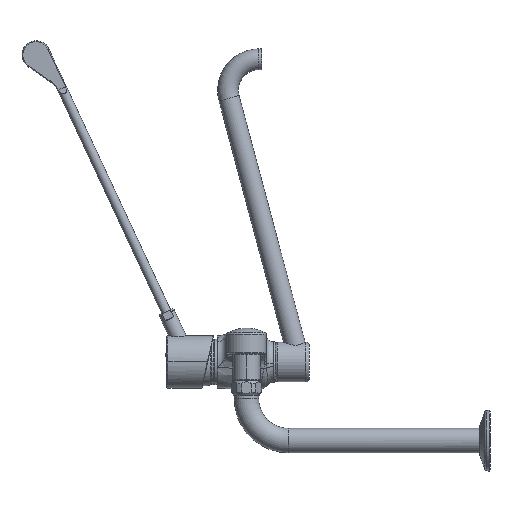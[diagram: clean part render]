
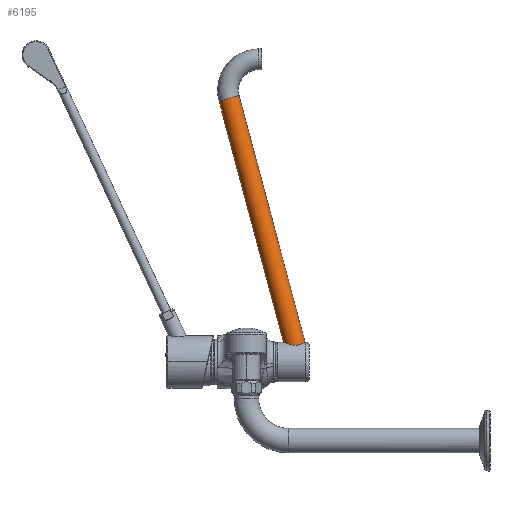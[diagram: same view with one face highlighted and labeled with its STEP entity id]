
A CAD part, left-side view. The second image highlights one B-rep face of the part: STEP entity #6195.
In plain terms, the highlighted cylindrical face has radius 11 mm (diameter 22 mm), a partial arc.
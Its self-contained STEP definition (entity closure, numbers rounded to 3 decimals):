
#2046=CARTESIAN_POINT('',(0.,-39.612,21.));
#2047=CARTESIAN_POINT('',(-0.125,-39.612,21.));
#2048=CARTESIAN_POINT('',(-0.375,-39.617,
20.998));
#2049=CARTESIAN_POINT('',(-0.751,-39.64,
20.988));
#2050=CARTESIAN_POINT('',(-1.126,-39.677,
20.971));
#2051=CARTESIAN_POINT('',(-1.502,-39.731,
20.947));
#2052=CARTESIAN_POINT('',(-1.879,-39.799,
20.917));
#2053=CARTESIAN_POINT('',(-2.255,-39.884,
20.88));
#2054=CARTESIAN_POINT('',(-2.631,-39.984,
20.836));
#2055=CARTESIAN_POINT('',(-3.009,-40.101,
20.785));
#2056=CARTESIAN_POINT('',(-3.386,-40.236,
20.726));
#2057=CARTESIAN_POINT('',(-3.763,-40.387,
20.661));
#2058=CARTESIAN_POINT('',(-4.14,-40.557,
20.589));
#2059=CARTESIAN_POINT('',(-4.517,-40.745,
20.51));
#2060=CARTESIAN_POINT('',(-4.893,-40.952,
20.423));
#2061=CARTESIAN_POINT('',(-5.267,-41.178,
20.33));
#2062=CARTESIAN_POINT('',(-5.639,-41.425,
20.23));
#2063=CARTESIAN_POINT('',(-6.008,-41.692,
20.123));
#2064=CARTESIAN_POINT('',(-6.373,-41.979,
20.011));
#2065=CARTESIAN_POINT('',(-6.733,-42.288,
19.892));
#2066=CARTESIAN_POINT('',(-7.087,-42.616,
19.769));
#2067=CARTESIAN_POINT('',(-7.433,-42.965,
19.642));
#2068=CARTESIAN_POINT('',(-7.77,-43.333,
19.511));
#2069=CARTESIAN_POINT('',(-8.096,-43.72,
19.378));
#2070=CARTESIAN_POINT('',(-8.41,-44.125,
19.243));
#2071=CARTESIAN_POINT('',(-8.709,-44.544,
19.11));
#2072=CARTESIAN_POINT('',(-8.993,-44.978,
18.978));
#2073=CARTESIAN_POINT('',(-9.261,-45.424,
18.849));
#2074=CARTESIAN_POINT('',(-9.509,-45.879,
18.724));
#2075=CARTESIAN_POINT('',(-9.739,-46.339,
18.606));
#2076=CARTESIAN_POINT('',(-9.949,-46.805,
18.494));
#2077=CARTESIAN_POINT('',(-10.139,-47.273,
18.391));
#2078=CARTESIAN_POINT('',(-10.308,-47.741,
18.296));
#2079=CARTESIAN_POINT('',(-10.458,-48.208,
18.211));
#2080=CARTESIAN_POINT('',(-10.589,-48.671,
18.135));
#2081=CARTESIAN_POINT('',(-10.7,-49.131,
18.07));
#2082=CARTESIAN_POINT('',(-10.793,-49.586,
18.014));
#2083=CARTESIAN_POINT('',(-10.868,-50.036,
17.969));
#2084=CARTESIAN_POINT('',(-10.926,-50.48,
17.934));
#2085=CARTESIAN_POINT('',(-10.967,-50.918,
17.909));
#2086=CARTESIAN_POINT('',(-10.993,-51.351,
17.893));
#2087=CARTESIAN_POINT('',(-11.002,-51.778,
17.887));
#2088=CARTESIAN_POINT('',(-10.997,-52.199,
17.89));
#2089=CARTESIAN_POINT('',(-10.976,-52.615,
17.903));
#2090=CARTESIAN_POINT('',(-10.941,-53.026,
17.925));
#2091=CARTESIAN_POINT('',(-10.891,-53.432,
17.955));
#2092=CARTESIAN_POINT('',(-10.827,-53.833,
17.994));
#2093=CARTESIAN_POINT('',(-10.748,-54.229,
18.041));
#2094=CARTESIAN_POINT('',(-10.654,-54.622,
18.097));
#2095=CARTESIAN_POINT('',(-10.545,-55.01,
18.16));
#2096=CARTESIAN_POINT('',(-10.422,-55.393,
18.232));
#2097=CARTESIAN_POINT('',(-10.283,-55.773,
18.31));
#2098=CARTESIAN_POINT('',(-10.128,-56.147,
18.396));
#2099=CARTESIAN_POINT('',(-9.958,-56.518,
18.489));
#2100=CARTESIAN_POINT('',(-9.771,-56.882,
18.589));
#2101=CARTESIAN_POINT('',(-9.568,-57.242,
18.694));
#2102=CARTESIAN_POINT('',(-9.349,-57.595,
18.805));
#2103=CARTESIAN_POINT('',(-9.113,-57.94,
18.92));
#2104=CARTESIAN_POINT('',(-8.86,-58.279,
19.04));
#2105=CARTESIAN_POINT('',(-8.592,-58.608,
19.163));
#2106=CARTESIAN_POINT('',(-8.307,-58.928,
19.288));
#2107=CARTESIAN_POINT('',(-8.007,-59.238,
19.415));
#2108=CARTESIAN_POINT('',(-7.692,-59.536,
19.542));
#2109=CARTESIAN_POINT('',(-7.362,-59.823,
19.668));
#2110=CARTESIAN_POINT('',(-7.019,-60.096,
19.793));
#2111=CARTESIAN_POINT('',(-6.664,-60.355,
19.916));
#2112=CARTESIAN_POINT('',(-6.297,-60.6,
20.035));
#2113=CARTESIAN_POINT('',(-5.919,-60.83,
20.15));
#2114=CARTESIAN_POINT('',(-5.532,-61.045,
20.26));
#2115=CARTESIAN_POINT('',(-5.136,-61.244,
20.364));
#2116=CARTESIAN_POINT('',(-4.733,-61.428,
20.461));
#2117=CARTESIAN_POINT('',(-4.322,-61.596,
20.552));
#2118=CARTESIAN_POINT('',(-3.906,-61.747,
20.635));
#2119=CARTESIAN_POINT('',(-3.484,-61.883,
20.711));
#2120=CARTESIAN_POINT('',(-3.057,-62.002,
20.778));
#2121=CARTESIAN_POINT('',(-2.627,-62.106,
20.837));
#2122=CARTESIAN_POINT('',(-2.194,-62.193,
20.887));
#2123=CARTESIAN_POINT('',(-1.758,-62.264,
20.928));
#2124=CARTESIAN_POINT('',(-1.32,-62.32,
20.96));
#2125=CARTESIAN_POINT('',(-0.881,-62.359,
20.983));
#2126=CARTESIAN_POINT('',(-0.441,-62.383,
20.997));
#2127=CARTESIAN_POINT('',(-0.147,-62.388,21.));
#2128=CARTESIAN_POINT('',(0.,-62.388,21.));
#2244=DIRECTION('',(0.,0.259,0.966));
#2245=VECTOR('',#2244,265.553);
#2246=CARTESIAN_POINT('',(0.,-39.612,21.));
#2247=LINE('',#2246,#2245);
#2248=DIRECTION('',(0.,0.259,0.966));
#2249=VECTOR('',#2248,271.447);
#2250=CARTESIAN_POINT('',(0.,-62.388,21.));
#2251=LINE('',#2250,#2249);
#2262=CARTESIAN_POINT('',(0.,18.493,280.351));
#2263=DIRECTION('',(0.,0.259,0.966));
#2264=DIRECTION('',(0.,0.966,-0.259));
#2265=AXIS2_PLACEMENT_3D('',#2262,#2263,#2264);
#4069=CARTESIAN_POINT('',(0.,29.118,277.504));
#4070=CARTESIAN_POINT('',(0.,7.868,283.198));
#4071=VERTEX_POINT('',#4069);
#4072=VERTEX_POINT('',#4070);
#4081=VERTEX_POINT('',#2046);
#4082=VERTEX_POINT('',#2128);
#6181=CARTESIAN_POINT('',(0.,-52.424,15.687));
#6182=DIRECTION('',(0.,0.259,0.966));
#6183=DIRECTION('',(0.,0.966,-0.259));
#6184=AXIS2_PLACEMENT_3D('',#6181,#6182,#6183);
#6185=CYLINDRICAL_SURFACE('',#6184,11.);
#6186=ORIENTED_EDGE('',*,*,#6136,.F.);
#6188=ORIENTED_EDGE('',*,*,#6187,.T.);
#6190=ORIENTED_EDGE('',*,*,#6189,.T.);
#6192=ORIENTED_EDGE('',*,*,#6191,.F.);
#6193=EDGE_LOOP('',(#6186,#6188,#6190,#6192));
#6194=FACE_OUTER_BOUND('',#6193,.F.);
#6195=ADVANCED_FACE('',(#6194),#6185,.T.);
#2129=B_SPLINE_CURVE_WITH_KNOTS('',3,(#2046,#2047,#2048,#2049,#2050,#2051,#2052,
#2053,#2054,#2055,#2056,#2057,#2058,#2059,#2060,#2061,#2062,#2063,#2064,#2065,
#2066,#2067,#2068,#2069,#2070,#2071,#2072,#2073,#2074,#2075,#2076,#2077,#2078,
#2079,#2080,#2081,#2082,#2083,#2084,#2085,#2086,#2087,#2088,#2089,#2090,#2091,
#2092,#2093,#2094,#2095,#2096,#2097,#2098,#2099,#2100,#2101,#2102,#2103,#2104,
#2105,#2106,#2107,#2108,#2109,#2110,#2111,#2112,#2113,#2114,#2115,#2116,#2117,
#2118,#2119,#2120,#2121,#2122,#2123,#2124,#2125,#2126,#2127,#2128),
.UNSPECIFIED.,.F.,.F.,(4,1,1,1,1,1,1,1,1,1,1,1,1,1,1,1,1,1,1,1,1,1,1,1,1,1,1,1,
1,1,1,1,1,1,1,1,1,1,1,1,1,1,1,1,1,1,1,1,1,1,1,1,1,1,1,1,1,1,1,1,1,1,1,1,1,1,1,1,
1,1,1,1,1,1,1,1,1,1,1,1,4),(0.,0.013,0.025,0.038,0.05,0.063,0.075,
0.088,0.1,0.113,0.125,0.138,0.15,0.163,0.175,0.188,0.2,
0.213,0.225,0.238,0.25,0.263,0.275,0.288,0.3,0.313,
0.325,0.338,0.35,0.363,0.375,0.388,0.4,0.413,0.425,
0.438,0.45,0.463,0.475,0.488,0.5,0.513,0.525,0.538,
0.55,0.563,0.575,0.588,0.6,0.613,0.625,0.638,0.65,
0.663,0.675,0.688,0.7,0.713,0.725,0.738,0.75,0.763,
0.775,0.788,0.8,0.813,0.825,0.838,0.85,0.863,0.875,
0.888,0.9,0.913,0.925,0.938,0.95,0.963,0.975,0.988,1.),
.UNSPECIFIED.);
#2266=CIRCLE('',#2265,11.);
#6136=EDGE_CURVE('',#4081,#4082,#2129,.T.);
#6187=EDGE_CURVE('',#4081,#4071,#2247,.T.);
#6189=EDGE_CURVE('',#4071,#4072,#2266,.T.);
#6191=EDGE_CURVE('',#4082,#4072,#2251,.T.);
